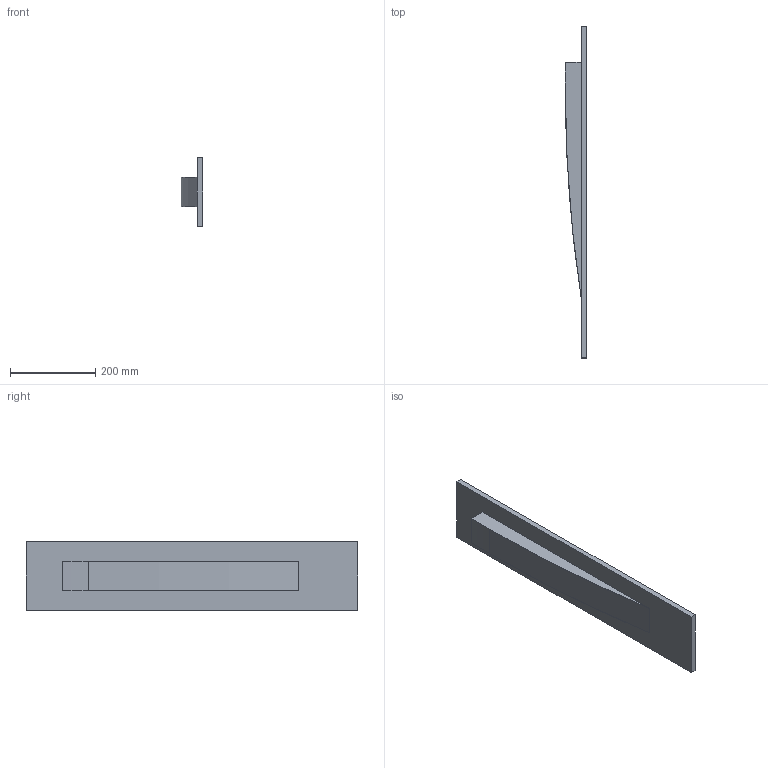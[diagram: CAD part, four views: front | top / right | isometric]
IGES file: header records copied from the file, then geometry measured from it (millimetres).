
Start section: SolidWorks IGES file using analytic representation for surfaces
Global section: file name: C:\Users\Stagiaire\Desktop\Rendu 3D\SLOT XL\3042 SLOT XL5\3042 SLOT XL5.IGS; native system: SolidWorks 2014; preprocessor: SolidWorks 2014; author: Stagiaire; date: 140912.093104; units: millimetre
Bounding box: 50.59 x 780 x 160 mm (x, y, z)
Surface area: 347250.5 mm2 (no closed solid volume)
Topology: 0 solids, 0 shells, 16 faces, 84 edges, 84 vertices
Faces by surface type: bspline 12, revolution 4
